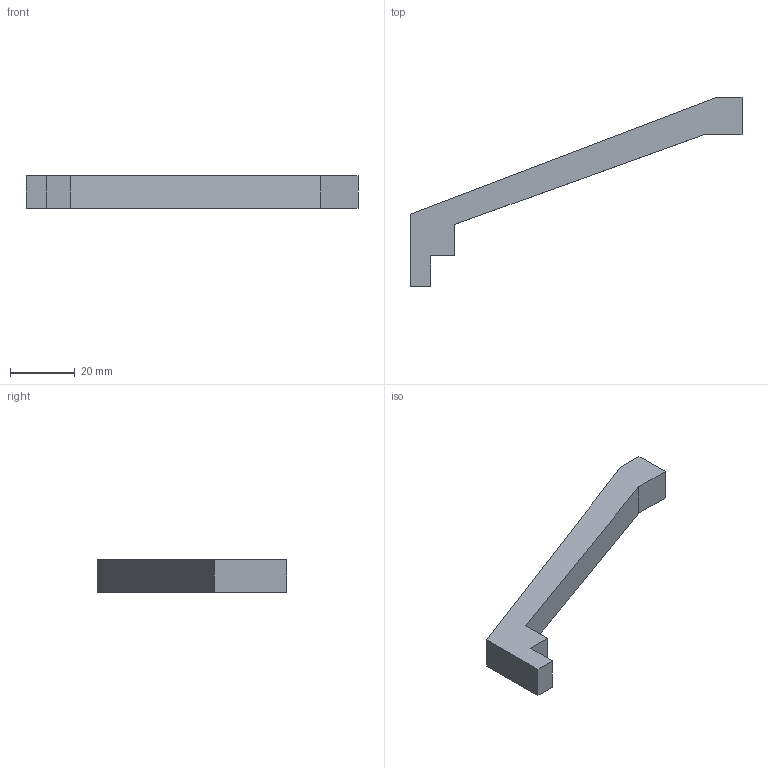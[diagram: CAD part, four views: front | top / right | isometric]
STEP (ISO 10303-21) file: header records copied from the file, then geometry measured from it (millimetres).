
FILE_DESCRIPTION (( 'STEP AP203' ), '1' );
FILE_NAME ('HM9405.STEP', '2024-02-22T13:20:49', ( '' ), ( '' ), 'SwSTEP 2.0', 'SolidWorks 2020', '' );
FILE_SCHEMA (( 'CONFIG_CONTROL_DESIGN' ));
Length unit declared in the file: millimetre
Products named in the file (1): HM9405
Bounding box: 102.78 x 58.55 x 10 mm (x, y, z)
Volume: 11223.9 mm3; surface area: 4946.7 mm2
Topology: 1 solids, 1 shells, 12 faces, 30 edges, 20 vertices
Faces by surface type: plane 12
Entity records: 431 total; most frequent: CARTESIAN_POINT 63, ORIENTED_EDGE 60, DIRECTION 56, EDGE_CURVE 30, VECTOR 30, LINE 30, VERTEX_POINT 20, AXIS2_PLACEMENT_3D 13
